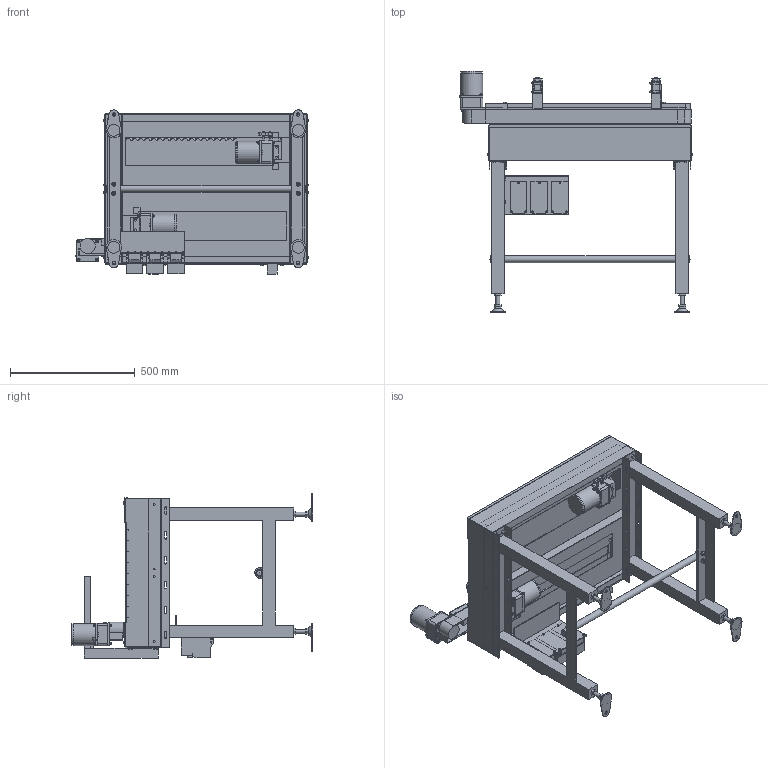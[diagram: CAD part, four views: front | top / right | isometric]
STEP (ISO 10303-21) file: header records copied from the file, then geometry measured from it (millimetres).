
FILE_DESCRIPTION( (''), '2;1');
FILE_NAME ('WEB-SGA-304x3-400-R-IVH-15-D.stp','2026-09-19T10:39:12',(''),(''),'spGate 21.9.5 (****-****-****-****)','','');
FILE_SCHEMA (('AUTOMOTIVE_DESIGN'));
Length unit declared in the file: millimetre
Products named in the file (91): WEB-SGA-304x3-400-R-IVH-15-D; TEMP_X_T-prt0; TEMP_X_T-prt1; TEMP_X_T-prt2; TEMP_X_T-prt3; TEMP_X_T-prt4; TEMP_X_T-prt5; TEMP_X_T-prt6; TEMP_X_T-prt7; TEMP_X_T-prt8; TEMP_X_T-prt9; TEMP_X_T-prt10; TEMP_X_T-prt11; TEMP_X_T-prt12; TEMP_X_T-prt13; TEMP_X_T-prt14; TEMP_X_T-prt15; TEMP_X_T-prt16; TEMP_X_T-prt17; TEMP_X_T-prt18; TEMP_X_T-prt19; TEMP_X_T-prt20; TEMP_X_T-prt21; TEMP_X_T-prt22; TEMP_X_T-prt23; TEMP_X_T-prt24; TEMP_X_T-prt25; TEMP_X_T-prt26; TEMP_X_T-prt27; TEMP_X_T-prt28; TEMP_X_T-prt29; TEMP_X_T-prt30; TEMP_X_T-prt31; TEMP_X_T-prt32; TEMP_X_T-prt33; TEMP_X_T-prt34; TEMP_X_T-prt35; TEMP_X_T-prt36; TEMP_X_T-prt37; TEMP_X_T-prt38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
Assembly tree (90 placements, depth 2):
  WEB-SGA-304x3-400-R-IVH-15-D
    TEMP_X_T-prt0
    TEMP_X_T-prt1
    TEMP_X_T-prt2
    TEMP_X_T-prt3
    TEMP_X_T-prt4
    TEMP_X_T-prt5
    TEMP_X_T-prt6
    TEMP_X_T-prt7
    TEMP_X_T-prt8
    TEMP_X_T-prt9
    TEMP_X_T-prt10
    TEMP_X_T-prt11
    TEMP_X_T-prt12
    TEMP_X_T-prt13
    TEMP_X_T-prt14
    TEMP_X_T-prt15
    TEMP_X_T-prt16
    TEMP_X_T-prt17
    TEMP_X_T-prt18
    TEMP_X_T-prt19
    TEMP_X_T-prt20
    TEMP_X_T-prt21
    TEMP_X_T-prt22
    TEMP_X_T-prt23
    TEMP_X_T-prt24
    TEMP_X_T-prt25
    TEMP_X_T-prt26
    TEMP_X_T-prt27
    TEMP_X_T-prt28
    TEMP_X_T-prt29
    TEMP_X_T-prt30
    TEMP_X_T-prt31
    TEMP_X_T-prt32
    TEMP_X_T-prt33
    TEMP_X_T-prt34
    TEMP_X_T-prt35
    TEMP_X_T-prt36
    TEMP_X_T-prt37
    TEMP_X_T-prt38
    TEMP_X_T-prt39
    TEMP_X_T-prt40
    TEMP_X_T-prt41
    TEMP_X_T-prt42
    TEMP_X_T-prt43
    TEMP_X_T-prt44
    TEMP_X_T-prt45
    TEMP_X_T-prt46
    TEMP_X_T-prt47
    TEMP_X_T-prt48
    TEMP_X_T-prt49
    TEMP_X_T-prt50
    TEMP_X_T-prt51
    TEMP_X_T-prt52
    TEMP_X_T-prt53
    TEMP_X_T-prt54
    TEMP_X_T-prt55
    TEMP_X_T-prt56
    TEMP_X_T-prt57
    TEMP_X_T-prt58
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Bounding box: 934.17 x 968.4 x 660 mm (x, y, z)
Volume: 24370874 mm3; surface area: 5499201.3 mm2
Topology: 90 solids, 91 shells, 2941 faces, 7604 edges, 5047 vertices
Faces by surface type: plane 2205, cylinder 514, bspline 214, sphere 8
Full cylindrical faces by diameter (mm): 2 x3, 3.3 x9, 4 x18, 5 x17, 5.5 x3, 6 x34, 6.5 x24, 6.6 x12, 7 x4, 8 x10, 8.49 x3, 9 x8, 10 x12, 10.5 x1, 11.5 x2, 12 x3, 12.2 x2, 12.5 x12, 13 x4, 16 x10, 17 x4, 20 x4, 22 x1, 27.2 x1, 28 x2, 36 x3, 40 x4, 50 x2, 83 x3, 84 x3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
Entity records: 157189 total; most frequent: CARTESIAN_POINT 22098, ORIENTED_EDGE 15164, DIRECTION 14495, COLOUR_RGB 10613, PRESENTATION_STYLE_ASSIGNMENT 10613, STYLED_ITEM 10613, EDGE_CURVE 7582, DRAUGHTING_PRE_DEFINED_CURVE_FONT 7582
